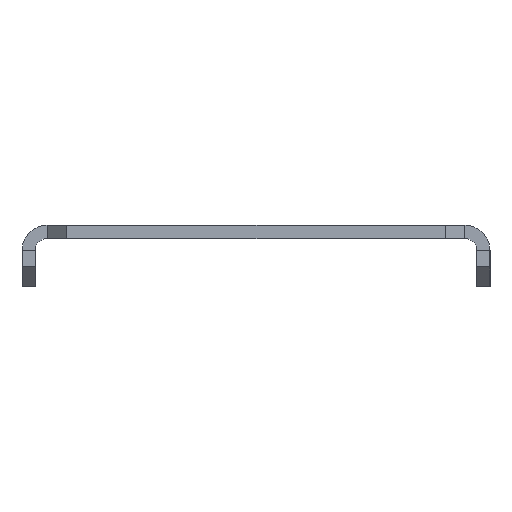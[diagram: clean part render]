
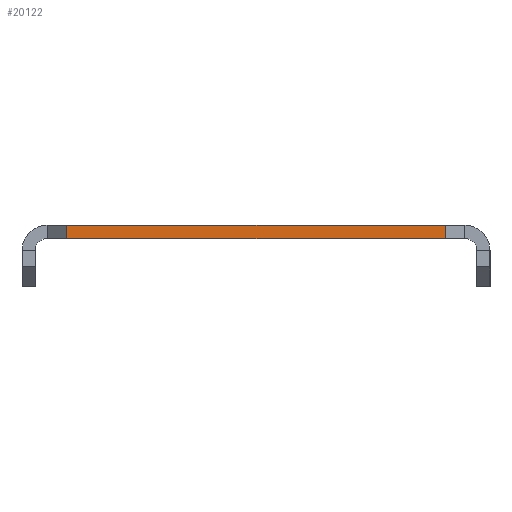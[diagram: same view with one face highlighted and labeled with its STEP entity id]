
A CAD part, left-side view. The second image highlights one B-rep face of the part: STEP entity #20122.
In plain terms, the highlighted planar face has unit normal (-1, 0, 0).
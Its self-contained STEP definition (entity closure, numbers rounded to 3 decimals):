
#51 = VECTOR ( 'NONE', #5041, 1000. ) ;
#1316 = LINE ( 'NONE', #15511, #12047 ) ;
#1683 = LINE ( 'NONE', #4972, #51 ) ;
#2653 = DIRECTION ( 'NONE',  ( 0., 0., -1. ) ) ;
#2745 = DIRECTION ( 'NONE',  ( 1., 0., 0. ) ) ;
#4166 = EDGE_LOOP ( 'NONE', ( #14339, #13818, #21707, #19351 ) ) ;
#4614 = CARTESIAN_POINT ( 'NONE',  ( -387.5, 31.655, 0. ) ) ;
#4670 = CARTESIAN_POINT ( 'NONE',  ( -387.5, 31.655, 0. ) ) ;
#4972 = CARTESIAN_POINT ( 'NONE',  ( -387.5, 28.655, 0. ) ) ;
#5041 = DIRECTION ( 'NONE',  ( 0., 0., -1. ) ) ;
#5152 = VERTEX_POINT ( 'NONE', #13735 ) ;
#5690 = VERTEX_POINT ( 'NONE', #20675 ) ;
#6141 = VERTEX_POINT ( 'NONE', #9524 ) ;
#6170 = EDGE_CURVE ( 'NONE', #5152, #5690, #1683, .T. ) ;
#6817 = DIRECTION ( 'NONE',  ( 0., 1., 0. ) ) ;
#7929 = EDGE_CURVE ( 'NONE', #18949, #6141, #15655, .T. ) ;
#8950 = EDGE_CURVE ( 'NONE', #18949, #5690, #10661, .T. ) ;
#9448 = CARTESIAN_POINT ( 'NONE',  ( -387.5, -28.655, 0. ) ) ;
#9524 = CARTESIAN_POINT ( 'NONE',  ( -387.5, -28.655, 2. ) ) ;
#9672 = PLANE ( 'NONE',  #18325 ) ;
#10661 = LINE ( 'NONE', #4614, #19983 ) ;
#11464 = DIRECTION ( 'NONE',  ( 0., 1., 0. ) ) ;
#12047 = VECTOR ( 'NONE', #6817, 1000. ) ;
#12256 = FACE_OUTER_BOUND ( 'NONE', #4166, .T. ) ;
#13735 = CARTESIAN_POINT ( 'NONE',  ( -387.5, 28.655, 2. ) ) ;
#13818 = ORIENTED_EDGE ( 'NONE', *, *, #7929, .T. ) ;
#14339 = ORIENTED_EDGE ( 'NONE', *, *, #8950, .F. ) ;
#15511 = CARTESIAN_POINT ( 'NONE',  ( -387.5, 31.655, 2. ) ) ;
#15628 = DIRECTION ( 'NONE',  ( 0., 0., 1. ) ) ;
#15655 = LINE ( 'NONE', #17242, #21974 ) ;
#16423 = EDGE_CURVE ( 'NONE', #6141, #5152, #1316, .T. ) ;
#17242 = CARTESIAN_POINT ( 'NONE',  ( -387.5, -28.655, 0. ) ) ;
#18325 = AXIS2_PLACEMENT_3D ( 'NONE', #4670, #2745, #2653 ) ;
#18949 = VERTEX_POINT ( 'NONE', #9448 ) ;
#19351 = ORIENTED_EDGE ( 'NONE', *, *, #6170, .T. ) ;
#19983 = VECTOR ( 'NONE', #11464, 1000. ) ;
#20122 = ADVANCED_FACE ( 'NONE', ( #12256 ), #9672, .F. ) ;
#20675 = CARTESIAN_POINT ( 'NONE',  ( -387.5, 28.655, 0. ) ) ;
#21707 = ORIENTED_EDGE ( 'NONE', *, *, #16423, .T. ) ;
#21974 = VECTOR ( 'NONE', #15628, 1000. ) ;
